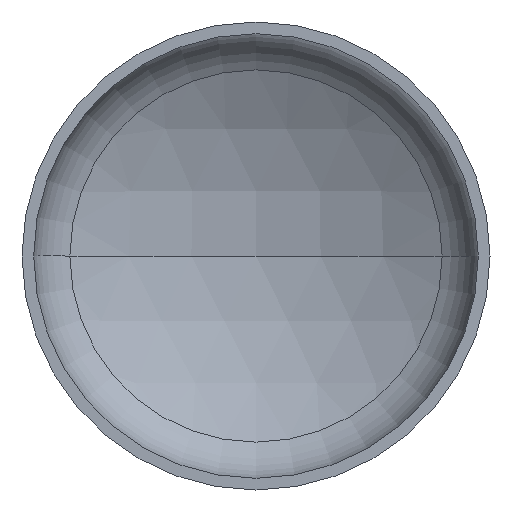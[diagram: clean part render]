
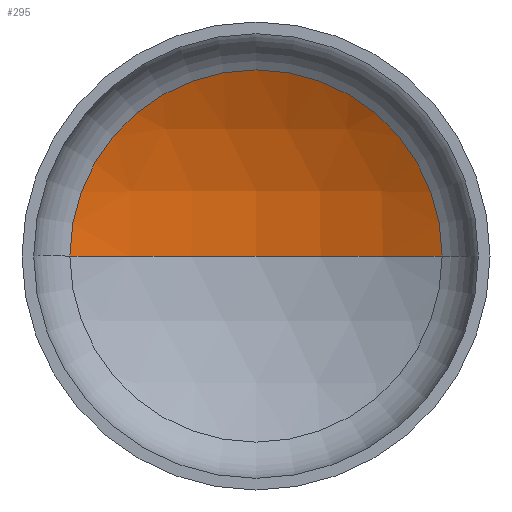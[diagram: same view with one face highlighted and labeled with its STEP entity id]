
A CAD part, front view. The second image highlights one B-rep face of the part: STEP entity #295.
In plain terms, the highlighted spherical face has radius 3200 mm.
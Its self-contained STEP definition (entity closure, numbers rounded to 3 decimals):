
#1 = AXIS2_PLACEMENT_3D ( 'NONE', #249, #392, #268 ) ;
#3 = AXIS2_PLACEMENT_3D ( 'NONE', #287, #109, #310 ) ;
#15 = VERTEX_POINT ( 'NONE', #65 ) ;
#35 = ORIENTED_EDGE ( 'NONE', *, *, #108, .T. ) ;
#40 = AXIS2_PLACEMENT_3D ( 'NONE', #143, #121, #146 ) ;
#47 = AXIS2_PLACEMENT_3D ( 'NONE', #369, #97, #84 ) ;
#51 = ORIENTED_EDGE ( 'NONE', *, *, #363, .F. ) ;
#65 = CARTESIAN_POINT ( 'NONE',  ( -1590.716, 633.632, 0. ) ) ;
#70 = VERTEX_POINT ( 'NONE', #305 ) ;
#84 = DIRECTION ( 'NONE',  ( 1., 0., 0. ) ) ;
#90 = ORIENTED_EDGE ( 'NONE', *, *, #355, .T. ) ;
#97 = DIRECTION ( 'NONE',  ( 0., -1., 0. ) ) ;
#108 = EDGE_CURVE ( 'NONE', #125, #15, #280, .T. ) ;
#109 = DIRECTION ( 'NONE',  ( 0., 0., -1. ) ) ;
#121 = DIRECTION ( 'NONE',  ( 0., 0., -1. ) ) ;
#125 = VERTEX_POINT ( 'NONE', #259 ) ;
#126 = EDGE_LOOP ( 'NONE', ( #51, #90, #35 ) ) ;
#143 = CARTESIAN_POINT ( 'NONE',  ( 0., -2142.989, 0. ) ) ;
#146 = DIRECTION ( 'NONE',  ( -1., 0., 0. ) ) ;
#244 = CIRCLE ( 'NONE', #1, 3200. ) ;
#249 = CARTESIAN_POINT ( 'NONE',  ( 0., -2142.989, 0. ) ) ;
#251 = CIRCLE ( 'NONE', #3, 3200. ) ;
#259 = CARTESIAN_POINT ( 'NONE',  ( 1590.716, 633.632, 0. ) ) ;
#268 = DIRECTION ( 'NONE',  ( 1., 0., 0. ) ) ;
#269 = SPHERICAL_SURFACE ( 'NONE', #40, 3200. ) ;
#280 = CIRCLE ( 'NONE', #47, 1590.716 ) ;
#287 = CARTESIAN_POINT ( 'NONE',  ( 0., -2142.989, 0. ) ) ;
#295 = ADVANCED_FACE ( 'NONE', ( #326 ), #269, .F. ) ;
#305 = CARTESIAN_POINT ( 'NONE',  ( 0., 1057.011, 0. ) ) ;
#310 = DIRECTION ( 'NONE',  ( -1., 0., 0. ) ) ;
#326 = FACE_OUTER_BOUND ( 'NONE', #126, .T. ) ;
#355 = EDGE_CURVE ( 'NONE', #70, #125, #251, .T. ) ;
#363 = EDGE_CURVE ( 'NONE', #70, #15, #244, .T. ) ;
#369 = CARTESIAN_POINT ( 'NONE',  ( 0., 633.632, 0. ) ) ;
#392 = DIRECTION ( 'NONE',  ( 0., 0., 1. ) ) ;
